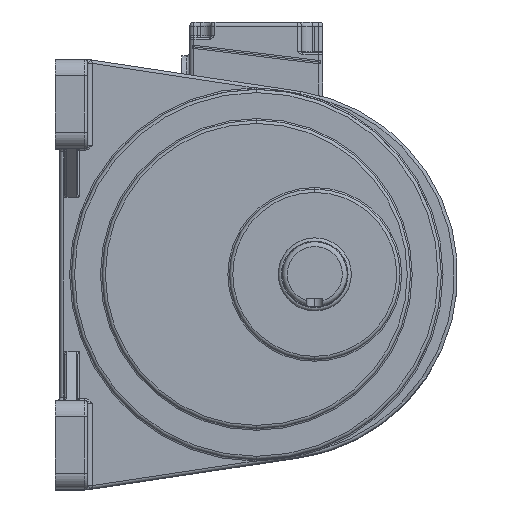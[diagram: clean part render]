
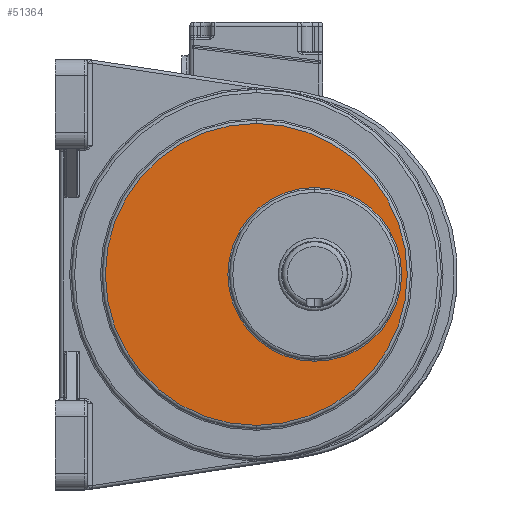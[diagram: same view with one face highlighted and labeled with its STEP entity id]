
A CAD part, top view. The second image highlights one B-rep face of the part: STEP entity #51364.
In plain terms, the highlighted planar face has unit normal (0, 0, 1).
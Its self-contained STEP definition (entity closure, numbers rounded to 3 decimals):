
#51288=CARTESIAN_POINT('',(6215.338,-1616.722,265.896));
#51289=VERTEX_POINT('',#51288);
#51298=CARTESIAN_POINT('',(6215.338,-1509.722,265.896));
#51299=VERTEX_POINT('',#51298);
#51307=CARTESIAN_POINT('',(6215.338,-1563.222,265.896));
#51308=DIRECTION('',(0.,-0.,1.));
#51309=DIRECTION('',(0.,1.,0.));
#51310=AXIS2_PLACEMENT_3D('',#51307,#51308,#51309);
#51311=CIRCLE('',#51310,53.5);
#51312=EDGE_CURVE('',#51299,#51289,#51311,.T.);
#51325=CARTESIAN_POINT('',(6215.338,-1563.222,265.896));
#51326=DIRECTION('',(0.,0.,1.));
#51327=DIRECTION('',(0.,-1.,0.));
#51328=AXIS2_PLACEMENT_3D('',#51325,#51326,#51327);
#51329=CIRCLE('',#51328,53.5);
#51330=EDGE_CURVE('',#51289,#51299,#51329,.T.);
#51335=CARTESIAN_POINT('',(6179.338,-1563.222,265.896));
#51336=DIRECTION('',(0.,0.,1.));
#51337=DIRECTION('',(0.,-1.,0.));
#51338=AXIS2_PLACEMENT_3D('',#51335,#51336,#51337);
#51339=PLANE('',#51338);
#51340=CARTESIAN_POINT('',(6179.338,-1656.222,265.896));
#51341=VERTEX_POINT('',#51340);
#51342=CARTESIAN_POINT('',(6179.338,-1470.222,265.896));
#51343=VERTEX_POINT('',#51342);
#51344=CARTESIAN_POINT('',(6179.338,-1563.222,265.896));
#51345=DIRECTION('',(0.,0.,1.));
#51346=DIRECTION('',(0.,-1.,0.));
#51347=AXIS2_PLACEMENT_3D('',#51344,#51345,#51346);
#51348=CIRCLE('',#51347,93.);
#51349=EDGE_CURVE('',#51341,#51343,#51348,.T.);
#51350=ORIENTED_EDGE('',*,*,#51349,.T.);
#51351=CARTESIAN_POINT('',(6179.338,-1563.222,265.896));
#51352=DIRECTION('',(0.,-0.,1.));
#51353=DIRECTION('',(0.,1.,0.));
#51354=AXIS2_PLACEMENT_3D('',#51351,#51352,#51353);
#51355=CIRCLE('',#51354,93.);
#51356=EDGE_CURVE('',#51343,#51341,#51355,.T.);
#51357=ORIENTED_EDGE('',*,*,#51356,.T.);
#51358=EDGE_LOOP('',(#51350,#51357));
#51359=FACE_BOUND('',#51358,.T.);
#51360=ORIENTED_EDGE('',*,*,#51330,.F.);
#51361=ORIENTED_EDGE('',*,*,#51312,.F.);
#51362=EDGE_LOOP('',(#51360,#51361));
#51363=FACE_BOUND('',#51362,.T.);
#51364=ADVANCED_FACE('',(#51359,#51363),#51339,.T.);
